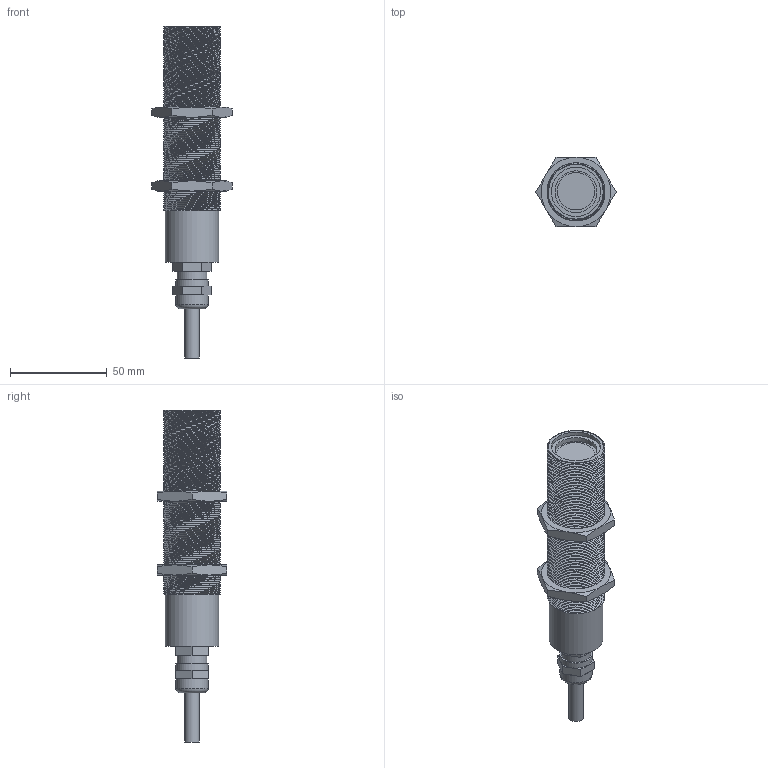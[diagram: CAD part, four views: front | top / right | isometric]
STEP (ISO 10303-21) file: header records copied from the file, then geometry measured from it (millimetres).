
FILE_DESCRIPTION((''),'2;1');
FILE_NAME('J:\WIP\Magpowr WEB\3D (Models)\Tension Controls\VERSATEC\US-2\US-2.stp','2012-10-04T09:35:07',(''),(''),'Autodesk Inventor 2012','Autodesk Inventor 2012','');
FILE_SCHEMA(('AUTOMOTIVE_DESIGN { 1 0 10303 214 1 1 1 1 }'));
Length unit declared in the file: inch
Products named in the file (1): US-2
Bounding box: 41.34 x 35.8 x 171.32 mm (x, y, z)
Volume: 86881.5 mm3; surface area: 23867.9 mm2
Topology: 2 solids, 2 shells, 85 faces, 178 edges, 109 vertices
Faces by surface type: plane 41, cone 25, cylinder 12, bspline 6, torus 1
Full cylindrical faces by diameter (mm): 7.62 x2, 15.24 x1, 16.637 x2, 19.304 x1, 21.641 x1, 25.387 x1, 27.686 x1
Entity records: 15954 total; most frequent: CARTESIAN_POINT 14292, ORIENTED_EDGE 332, DIRECTION 306, EDGE_CURVE 166, AXIS2_PLACEMENT_3D 129, EDGE_LOOP 109, VERTEX_POINT 108, FACE_OUTER_BOUND 85
